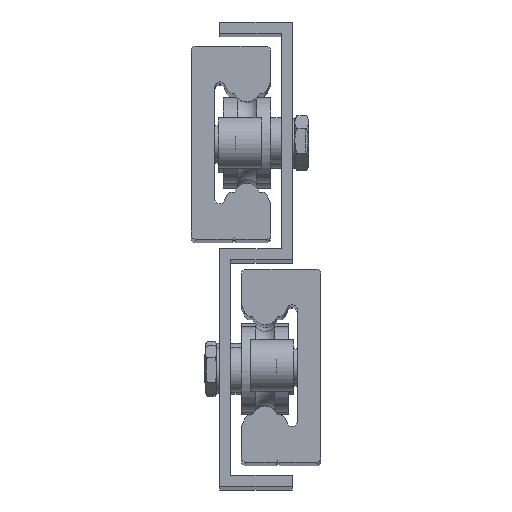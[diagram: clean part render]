
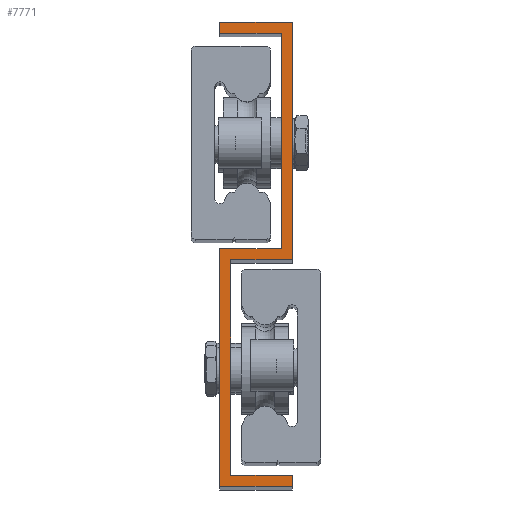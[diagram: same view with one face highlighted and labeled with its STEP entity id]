
A CAD part, top view. The second image highlights one B-rep face of the part: STEP entity #7771.
In plain terms, the highlighted planar face has unit normal (0, 0, 1).
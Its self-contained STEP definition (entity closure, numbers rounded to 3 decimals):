
#9 = VECTOR ( 'NONE', #343, 1000. ) ;
#46 = VERTEX_POINT ( 'NONE', #8835 ) ;
#219 = DIRECTION ( 'NONE',  ( 0., 1., 0. ) ) ;
#233 = CARTESIAN_POINT ( 'NONE',  ( 0., 105.6, 470. ) ) ;
#280 = VERTEX_POINT ( 'NONE', #2647 ) ;
#343 = DIRECTION ( 'NONE',  ( 0., 1., 0. ) ) ;
#507 = EDGE_CURVE ( 'NONE', #8111, #571, #6568, .T. ) ;
#522 = LINE ( 'NONE', #2143, #4108 ) ;
#571 = VERTEX_POINT ( 'NONE', #8069 ) ;
#611 = ORIENTED_EDGE ( 'NONE', *, *, #2408, .T. ) ;
#964 = DIRECTION ( 'NONE',  ( 0., 1., 0. ) ) ;
#977 = DIRECTION ( 'NONE',  ( 1., 0., 0. ) ) ;
#1178 = ORIENTED_EDGE ( 'NONE', *, *, #4647, .F. ) ;
#1469 = VERTEX_POINT ( 'NONE', #8957 ) ;
#1514 = VECTOR ( 'NONE', #219, 1000. ) ;
#1732 = LINE ( 'NONE', #5984, #3122 ) ;
#1750 = DIRECTION ( 'NONE',  ( 0., 1., 0. ) ) ;
#1773 = CARTESIAN_POINT ( 'NONE',  ( 14.4, 55.4, 470. ) ) ;
#1940 = EDGE_CURVE ( 'NONE', #3071, #8111, #6261, .T. ) ;
#1969 = LINE ( 'NONE', #7663, #3380 ) ;
#2019 = ORIENTED_EDGE ( 'NONE', *, *, #507, .T. ) ;
#2143 = CARTESIAN_POINT ( 'NONE',  ( 2.6, 0., 470. ) ) ;
#2147 = LINE ( 'NONE', #7854, #4509 ) ;
#2241 = DIRECTION ( 'NONE',  ( -1., 0., 0. ) ) ;
#2318 = CARTESIAN_POINT ( 'NONE',  ( 14.4, 105.6, 470. ) ) ;
#2400 = CARTESIAN_POINT ( 'NONE',  ( 17., 55.4, 470. ) ) ;
#2408 = EDGE_CURVE ( 'NONE', #571, #7278, #2147, .T. ) ;
#2512 = EDGE_LOOP ( 'NONE', ( #611, #7036, #9188, #5335, #5075, #8043, #1178, #5483, #4415, #5254, #7768, #2019 ) ) ;
#2647 = CARTESIAN_POINT ( 'NONE',  ( 14.4, 55.4, 470. ) ) ;
#2929 = EDGE_CURVE ( 'NONE', #280, #8779, #3375, .T. ) ;
#3002 = CARTESIAN_POINT ( 'NONE',  ( 0., 55.4, 470. ) ) ;
#3062 = LINE ( 'NONE', #6700, #8793 ) ;
#3071 = VERTEX_POINT ( 'NONE', #3529 ) ;
#3122 = VECTOR ( 'NONE', #8064, 1000. ) ;
#3228 = FACE_OUTER_BOUND ( 'NONE', #2512, .T. ) ;
#3375 = LINE ( 'NONE', #1773, #9 ) ;
#3380 = VECTOR ( 'NONE', #6781, 1000. ) ;
#3475 = EDGE_CURVE ( 'NONE', #6086, #3071, #522, .T. ) ;
#3529 = CARTESIAN_POINT ( 'NONE',  ( 2.6, 52.8, 470. ) ) ;
#3734 = EDGE_CURVE ( 'NONE', #9236, #7278, #8173, .T. ) ;
#3881 = CARTESIAN_POINT ( 'NONE',  ( 0., 105.6, 470. ) ) ;
#3903 = VECTOR ( 'NONE', #1750, 1000. ) ;
#4108 = VECTOR ( 'NONE', #4273, 1000. ) ;
#4273 = DIRECTION ( 'NONE',  ( 0., 1., 0. ) ) ;
#4415 = ORIENTED_EDGE ( 'NONE', *, *, #6740, .T. ) ;
#4435 = AXIS2_PLACEMENT_3D ( 'NONE', #5532, #7557, #6859 ) ;
#4458 = CARTESIAN_POINT ( 'NONE',  ( 17., 52.8, 470. ) ) ;
#4509 = VECTOR ( 'NONE', #2241, 1000. ) ;
#4647 = EDGE_CURVE ( 'NONE', #1469, #5105, #1969, .T. ) ;
#5009 = CARTESIAN_POINT ( 'NONE',  ( 0., 108.2, 470. ) ) ;
#5075 = ORIENTED_EDGE ( 'NONE', *, *, #7029, .F. ) ;
#5105 = VERTEX_POINT ( 'NONE', #6771 ) ;
#5254 = ORIENTED_EDGE ( 'NONE', *, *, #3475, .T. ) ;
#5335 = ORIENTED_EDGE ( 'NONE', *, *, #2929, .F. ) ;
#5343 = PLANE ( 'NONE',  #4435 ) ;
#5470 = LINE ( 'NONE', #9058, #8208 ) ;
#5483 = ORIENTED_EDGE ( 'NONE', *, *, #5694, .F. ) ;
#5532 = CARTESIAN_POINT ( 'NONE',  ( 0., 0., 470. ) ) ;
#5694 = EDGE_CURVE ( 'NONE', #46, #1469, #1732, .T. ) ;
#5799 = CARTESIAN_POINT ( 'NONE',  ( 2.6, 2.6, 470. ) ) ;
#5947 = LINE ( 'NONE', #2318, #6590 ) ;
#5984 = CARTESIAN_POINT ( 'NONE',  ( 17., 2.6, 470. ) ) ;
#6019 = VECTOR ( 'NONE', #6168, 1000. ) ;
#6086 = VERTEX_POINT ( 'NONE', #5799 ) ;
#6168 = DIRECTION ( 'NONE',  ( 1., 0., 0. ) ) ;
#6261 = LINE ( 'NONE', #9136, #6019 ) ;
#6341 = DIRECTION ( 'NONE',  ( -1., 0., 0. ) ) ;
#6463 = VERTEX_POINT ( 'NONE', #3002 ) ;
#6568 = LINE ( 'NONE', #2400, #1514 ) ;
#6590 = VECTOR ( 'NONE', #8197, 1000. ) ;
#6700 = CARTESIAN_POINT ( 'NONE',  ( 0., 0., 470. ) ) ;
#6740 = EDGE_CURVE ( 'NONE', #46, #6086, #9162, .T. ) ;
#6771 = CARTESIAN_POINT ( 'NONE',  ( 0., 0., 470. ) ) ;
#6781 = DIRECTION ( 'NONE',  ( -1., 0., 0. ) ) ;
#6859 = DIRECTION ( 'NONE',  ( 1., 0., 0. ) ) ;
#6998 = CARTESIAN_POINT ( 'NONE',  ( 0., 2.6, 470. ) ) ;
#7029 = EDGE_CURVE ( 'NONE', #6463, #280, #5470, .T. ) ;
#7036 = ORIENTED_EDGE ( 'NONE', *, *, #3734, .F. ) ;
#7278 = VERTEX_POINT ( 'NONE', #5009 ) ;
#7557 = DIRECTION ( 'NONE',  ( 0., 0., 1. ) ) ;
#7663 = CARTESIAN_POINT ( 'NONE',  ( 0., 0., 470. ) ) ;
#7768 = ORIENTED_EDGE ( 'NONE', *, *, #1940, .T. ) ;
#7771 = ADVANCED_FACE ( 'NONE', ( #3228 ), #5343, .T. ) ;
#7854 = CARTESIAN_POINT ( 'NONE',  ( 14.4, 108.2, 470. ) ) ;
#7914 = VECTOR ( 'NONE', #6341, 1000. ) ;
#8043 = ORIENTED_EDGE ( 'NONE', *, *, #8819, .F. ) ;
#8064 = DIRECTION ( 'NONE',  ( 0., -1., 0. ) ) ;
#8069 = CARTESIAN_POINT ( 'NONE',  ( 17., 108.2, 470. ) ) ;
#8111 = VERTEX_POINT ( 'NONE', #4458 ) ;
#8173 = LINE ( 'NONE', #3881, #3903 ) ;
#8197 = DIRECTION ( 'NONE',  ( -1., 0., 0. ) ) ;
#8208 = VECTOR ( 'NONE', #977, 1000. ) ;
#8406 = EDGE_CURVE ( 'NONE', #8779, #9236, #5947, .T. ) ;
#8779 = VERTEX_POINT ( 'NONE', #9338 ) ;
#8793 = VECTOR ( 'NONE', #964, 1000. ) ;
#8819 = EDGE_CURVE ( 'NONE', #5105, #6463, #3062, .T. ) ;
#8835 = CARTESIAN_POINT ( 'NONE',  ( 17., 2.6, 470. ) ) ;
#8957 = CARTESIAN_POINT ( 'NONE',  ( 17., 0., 470. ) ) ;
#9058 = CARTESIAN_POINT ( 'NONE',  ( 0., 55.4, 470. ) ) ;
#9136 = CARTESIAN_POINT ( 'NONE',  ( 0., 52.8, 470. ) ) ;
#9162 = LINE ( 'NONE', #6998, #7914 ) ;
#9188 = ORIENTED_EDGE ( 'NONE', *, *, #8406, .F. ) ;
#9236 = VERTEX_POINT ( 'NONE', #233 ) ;
#9338 = CARTESIAN_POINT ( 'NONE',  ( 14.4, 105.6, 470. ) ) ;
